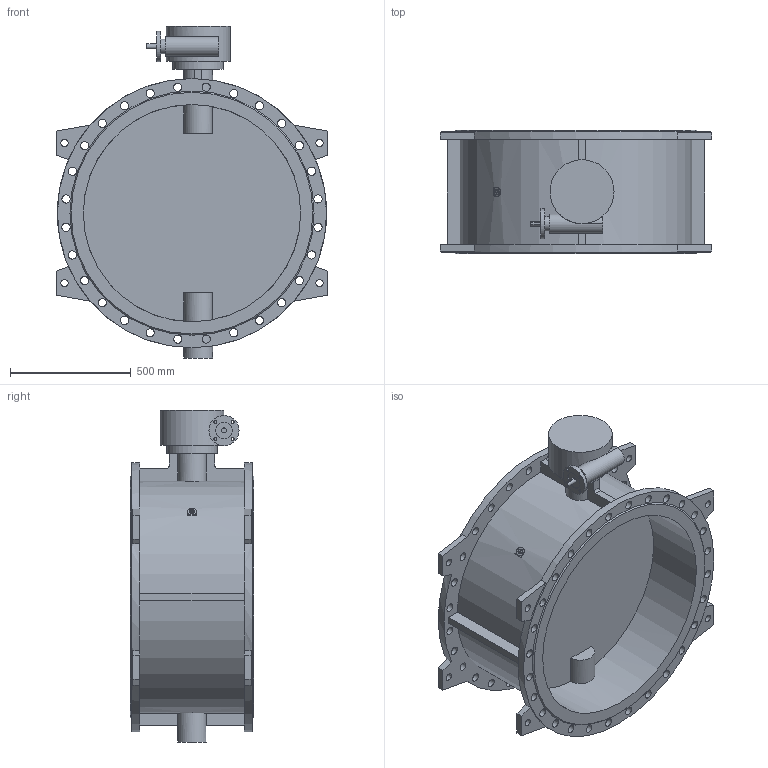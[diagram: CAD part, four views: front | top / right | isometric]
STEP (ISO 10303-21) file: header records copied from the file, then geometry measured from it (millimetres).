
FILE_DESCRIPTION(('STEP AP203'), '1');
FILE_NAME('Çàòâîð 023F.Z DN900 PN10_ð-ð_ôë', '', ('UNSPECIFIED'), ('UNSPECIFIED'), 'ASCON STEP Converter 1.6', 'ASCON Math Kernel', '');
FILE_SCHEMA(('CONFIG_CONTROL_DESIGN'));
Length unit declared in the file: millimetre
Bounding box: 1126 x 510 x 1375 mm (x, y, z)
Volume: 120622229.6 mm3; surface area: 6137258.7 mm2
Topology: 1 solids, 1 shells, 203 faces, 532 edges, 354 vertices
Faces by surface type: cylinder 106, plane 95, cone 2
Full cylindrical faces by diameter (mm): 12 x4, 18.5 x4, 20 x1, 23 x4, 30 x8, 34 x56, 60 x1, 70 x1, 80 x1, 120 x1, 125 x1, 210 x1, 265 x1, 900 x2, 1115 x2
Entity records: 8901 total; most frequent: CARTESIAN_POINT 2158, DIRECTION 1053, ORIENTED_EDGE 876, EDGE_LOOP 453, EDGE_CURVE 438, AXIS2_PLACEMENT_3D 431, VERTEX_POINT 353, FACE_BOUND 278
